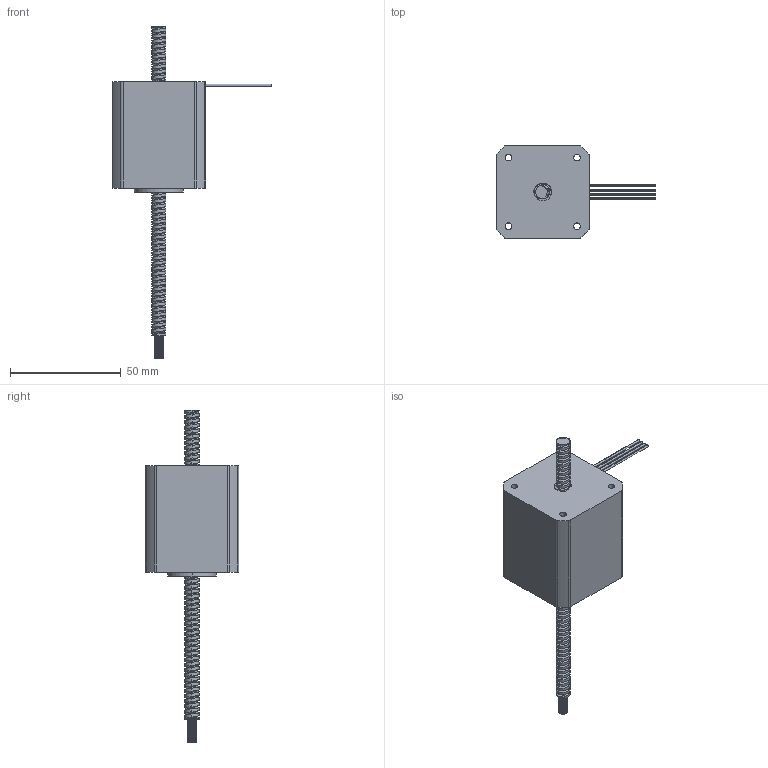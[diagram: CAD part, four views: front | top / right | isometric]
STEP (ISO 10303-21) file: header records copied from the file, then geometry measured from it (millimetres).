
FILE_DESCRIPTION(('FreeCAD Model'),'2;1');
FILE_NAME( 'C:/Users/ck/Documents/NAS02/Ny mappe/Ok/MSL172ANx-4L3N0xxxx.step', '2018-07-27T14:08:21',('Author'),(''), 'Open CASCADE STEP processor 6.8','FreeCAD','Unknown');
FILE_SCHEMA(('AUTOMOTIVE_DESIGN_CC2 { 1 2 10303 214 -1 1 5 4 }'));
Length unit declared in the file: millimetre
Products named in the file (2): ASSEMBLY
Assembly tree (1 placements, depth 2):
  ASSEMBLY
    (unnamed)
Bounding box: 72.2 x 42.2 x 150 mm (x, y, z)
Volume: 84820.7 mm3; surface area: 18814.8 mm2
Topology: 1 solids, 1 shells, 175 faces, 501 edges, 334 vertices
Faces by surface type: cylinder 152, plane 17, bspline 6
Entity records: 51709 total; most frequent: CARTESIAN_POINT 44072, ORIENTED_EDGE 1002, PCURVE 1002, DEFINITIONAL_REPRESENTATION 1002, B_SPLINE_CURVE_WITH_KNOTS 900, DIRECTION 763, EDGE_CURVE 501, SURFACE_CURVE 501
